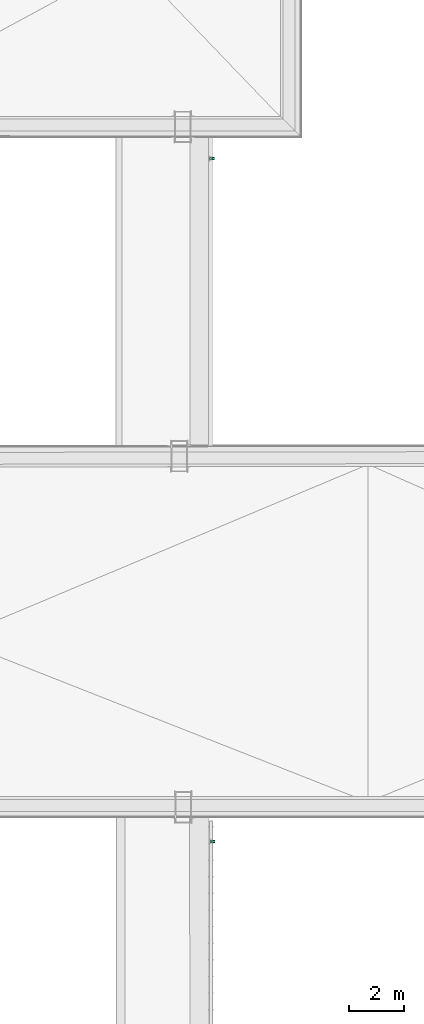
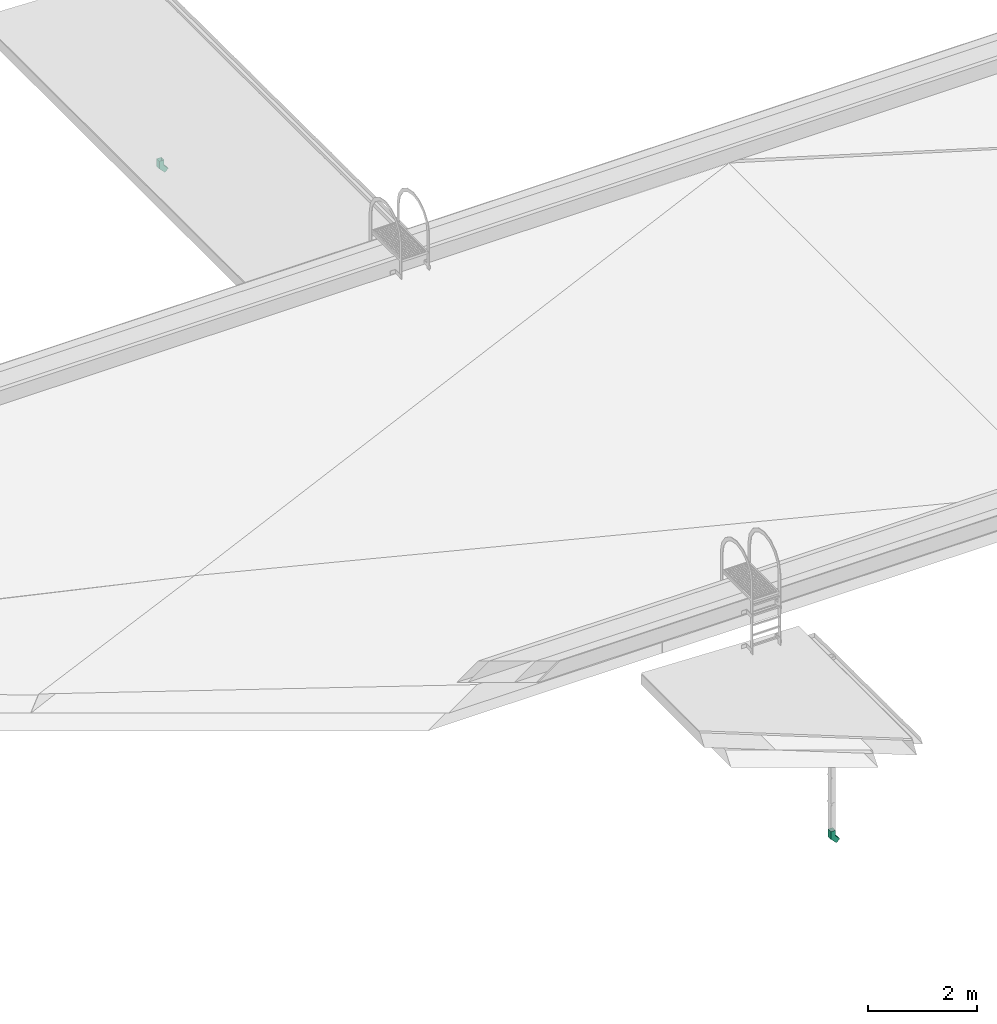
# One storey, part 24 of 47: 2 flow terminals.
"""IFC2X3 building model written with IfcOpenShell, lengths in millimetres."""

import ifcopenshell
import ifcopenshell.guid

model = None  # the IFC model being written
_history = None  # IfcOwnerHistory: only IFC2X3 demands one
_inside = {}  # id of a spatial element -> (the spatial element, [elements in it])
_under = {}  # id of a project, library or spatial element -> (it, [spatial elements below it])
_declared = {}  # id of a project -> (the project, [libraries it declares])
_typed = {}  # id of a type object -> (the type object, [elements of that type])
_made_of = {}  # id of a material, layer set ... -> (it, [elements and type objects made of it])


def new_model(schema):
    """Start an empty IFC model of exactly this schema.

    Asked for "IFC4X3", IfcOpenShell would pick the latest addendum, in which some entities
    have other attributes; the version numbers below select the first issue.
    IFC2X3 requires an IfcOwnerHistory on every rooted entity: one is made here for all.
    """
    global model, _history
    if schema == "IFC4X3":
        model = ifcopenshell.file(schema_version=(4, 3, 0, 0))
    else:
        model = ifcopenshell.file(schema=schema)
    _inside.clear()
    _under.clear()
    _declared.clear()
    _typed.clear()
    _made_of.clear()
    _history = None
    if model.schema == "IFC2X3":
        org = make("IfcOrganization", Name="unknown")
        user = make(
            "IfcPersonAndOrganization",
            ThePerson=make("IfcPerson", FamilyName="unknown"),
            TheOrganization=org,
        )
        app = make(
            "IfcApplication",
            ApplicationDeveloper=org,
            Version="unknown",
            ApplicationFullName="unknown",
            ApplicationIdentifier="unknown",
        )
        _history = make(
            "IfcOwnerHistory",
            OwningUser=user,
            OwningApplication=app,
            ChangeAction="ADDED",
            CreationDate=0,
        )
    return model


def make(cls, **values):
    """One entity of the class cls with the attributes given. An attribute that is None is left unset."""
    return model.create_entity(
        cls, **{name: value for name, value in values.items() if value is not None}
    )


def entity(cls, *values):
    """Any entity or typed value of the class cls, its attributes in the order of the schema. None: left unset."""
    e = model.create_entity(cls)
    for i, value in enumerate(values):
        if value is not None:
            e[i] = value
    return e


def rooted(cls, **values):
    """An entity with a GlobalId (a new one), such as an element, a storey or a relation."""
    return make(cls, GlobalId=ifcopenshell.guid.new(), OwnerHistory=_history, **values)


def si_unit(unit_type, name, prefix=None):
    """IfcSIUnit, for example si_unit("LENGTHUNIT", "METRE", prefix="MILLI")."""
    return make("IfcSIUnit", UnitType=unit_type, Prefix=prefix, Name=name)


def converted_unit(unit_type, name, factor, base, dimensions=None, offset=None):
    """IfcConversionBasedUnit, such as the inch: factor (a typed value) times the base unit."""
    return make(
        "IfcConversionBasedUnit"
        if offset is None
        else "IfcConversionBasedUnitWithOffset",
        ConversionOffset=offset,
        Dimensions=None
        if dimensions is None
        else entity("IfcDimensionalExponents", *dimensions),
        UnitType=unit_type,
        Name=name,
        ConversionFactor=make(
            "IfcMeasureWithUnit", ValueComponent=factor, UnitComponent=base
        ),
    )


def derived_unit(unit_type, elements):
    """IfcDerivedUnit: a product of units, each with its exponent."""
    return make(
        "IfcDerivedUnit",
        Elements=[
            make("IfcDerivedUnitElement", Unit=unit, Exponent=power)
            for unit, power in elements
        ],
        UnitType=unit_type,
    )


def money_unit(currency):
    """IfcMonetaryUnit."""
    return make("IfcMonetaryUnit", Currency=currency)


def assignment(units):
    """IfcUnitAssignment: the units of a project."""
    return None if units is None else make("IfcUnitAssignment", Units=units)


def point(xyz):
    """IfcCartesianPoint."""
    return None if xyz is None else make("IfcCartesianPoint", Coordinates=xyz)


def direction(xyz):
    """IfcDirection."""
    return None if xyz is None else make("IfcDirection", DirectionRatios=xyz)


def frame(location, z_axis=None, x_axis=None):
    """IfcAxis2Placement3D, a coordinate frame: its origin and axes. An axis left out is left unset."""
    return make(
        "IfcAxis2Placement3D",
        Location=point(location),
        Axis=direction(z_axis),
        RefDirection=direction(x_axis),
    )


def origin_with_axes():
    """The frame at (0, 0, 0) with the z axis (0, 0, 1) and the x axis (1, 0, 0) written out."""
    return frame((0.0, 0.0, 0.0), z_axis=(0.0, 0.0, 1.0), x_axis=(1.0, 0.0, 0.0))


def place(relative_to, where):
    """IfcLocalPlacement: puts the frame where relative to a parent placement (None: the world)."""
    return make(
        "IfcLocalPlacement", PlacementRelTo=relative_to, RelativePlacement=where
    )


def context(
    kind, dimensions, precision=None, world=None, true_north=None, identifier=None
):
    """IfcGeometricRepresentationContext, for example the 3D "Model" context."""
    return make(
        "IfcGeometricRepresentationContext",
        ContextIdentifier=identifier,
        ContextType=kind,
        CoordinateSpaceDimension=dimensions,
        Precision=precision,
        WorldCoordinateSystem=world,
        TrueNorth=true_north,
    )


def subcontext(parent, identifier, kind, view, scale=None):
    """IfcGeometricRepresentationSubContext, for example "Body" below "Model"."""
    return make(
        "IfcGeometricRepresentationSubContext",
        ContextIdentifier=identifier,
        ContextType=kind,
        ParentContext=parent,
        TargetScale=scale,
        TargetView=view,
    )


def project(units=None, contexts=None):
    """IfcProject with its units and contexts."""
    return rooted(
        "IfcProject",
        Name="project",
        RepresentationContexts=contexts,
        UnitsInContext=assignment(units),
    )


def spatial(cls, under=None, at=None, **own):
    """A site, building, storey or space (cls), placed at a placement, below another one or the project."""
    s = rooted(cls, ObjectPlacement=at, **own)
    if under is not None:
        _under.setdefault(under.id(), (under, []))[1].append(s)
    return s


def faces_of(points, faces, orient=None, outer=None):
    """IfcFace entities. A face is a list of loops; a loop is a list of indices into points, from 0.

    orient and outer hold one flag for each loop. By default every Orientation is true, the
    first loop of a face is its IfcFaceOuterBound and the others are IfcFaceBound.
    """
    made = []
    for i, loops in enumerate(faces):
        bounds = []
        for j, loop in enumerate(loops):
            is_outer = j == 0 if outer is None else outer[i][j]
            bounds.append(
                make(
                    "IfcFaceOuterBound" if is_outer else "IfcFaceBound",
                    Bound=make("IfcPolyLoop", Polygon=[points[k] for k in loop]),
                    Orientation=True if orient is None else orient[i][j],
                )
            )
        made.append(make("IfcFace", Bounds=bounds))
    return made


def open_shell(faces, orient=None, outer=None):
    """The faces of one IfcOpenShell. surface_model builds it on its shared points."""
    return ("IfcOpenShell", faces, orient, outer)


def surface_model(cls, points, shells):
    """IfcFaceBasedSurfaceModel or IfcShellBasedSurfaceModel (cls): surfaces that need not close."""
    shared = [point(p) for p in points]
    made = [make(c, CfsFaces=faces_of(shared, fs, o, b)) for c, fs, o, b in shells]
    if cls == "IfcFaceBasedSurfaceModel":
        return make(cls, FbsmFaces=made)
    return make(cls, SbsmBoundary=made)


def shape(context_of_items, identifier, shape_type, items):
    """IfcShapeRepresentation: the items that make up one representation, for example the "Body"."""
    return make(
        "IfcShapeRepresentation",
        ContextOfItems=context_of_items,
        RepresentationIdentifier=identifier,
        RepresentationType=shape_type,
        Items=items,
    )


def source(mapping_origin, context_of_items, identifier, shape_type, items):
    """IfcRepresentationMap: a shape defined once, which mapped items show again and again."""
    return make(
        "IfcRepresentationMap",
        MappingOrigin=mapping_origin,
        MappedRepresentation=shape(context_of_items, identifier, shape_type, items),
    )


def transform(
    local_origin,
    x_axis=None,
    y_axis=None,
    z_axis=None,
    scale=None,
    scale2=None,
    scale3=None,
    uniform=True,
):
    """IfcCartesianTransformationOperator3D, or its non-uniform kind. x_axis, y_axis, z_axis: its Axis1, 2, 3."""
    if uniform:
        return make(
            "IfcCartesianTransformationOperator3D",
            Axis1=direction(x_axis),
            Axis2=direction(y_axis),
            LocalOrigin=point(local_origin),
            Scale=scale,
            Axis3=direction(z_axis),
        )
    return make(
        "IfcCartesianTransformationOperator3DnonUniform",
        Axis1=direction(x_axis),
        Axis2=direction(y_axis),
        LocalOrigin=point(local_origin),
        Scale=scale,
        Axis3=direction(z_axis),
        Scale2=scale2,
        Scale3=scale3,
    )


def mapped(mapping_source, mapping_target):
    """IfcMappedItem: shows the shape of a source again, moved by a transform."""
    return make(
        "IfcMappedItem", MappingSource=mapping_source, MappingTarget=mapping_target
    )


def made_of(thing, what):
    """Note that an element or type object is made of a material, layer set ...; save() writes the relation."""
    if what is not None:
        _made_of.setdefault(what.id(), (what, []))[1].append(thing)
    return thing


def type_object(cls, material=None, **own):
    """A type object (cls), such as IfcWallType, which elements share."""
    return made_of(rooted(cls, **own), material)


def element(
    cls,
    number,
    at=None,
    inside=None,
    cuts=None,
    type_object=None,
    material=None,
    context=None,
    identifier="Body",
    shape_type=None,
    held_by="IfcProductDefinitionShape",
    body=None,
    shapes=None,
    **own,
):
    """One element of the class cls, such as IfcWall. Its Tag is "e" and its number.

    at: its placement. inside: the storey or other place that contains it. cuts: it is an
    opening in that element (IfcRelVoidsElement). A single representation is given by context,
    identifier, shape_type and body (its items); several are given by shapes. held_by: the class
    of the entity that holds the representations. save() writes the other relations.
    """
    e = rooted(cls, Tag="e%d" % number, ObjectPlacement=at, **own)
    if body is not None:
        shapes = [shape(context, identifier, shape_type, body)]
    if shapes is not None:
        e.Representation = make(held_by, Representations=shapes)
    if inside is not None:
        _inside.setdefault(inside.id(), (inside, []))[1].append(e)
    if cuts is not None:
        rooted(
            "IfcRelVoidsElement", RelatingBuildingElement=cuts, RelatedOpeningElement=e
        )
    if type_object is not None:
        _typed.setdefault(type_object.id(), (type_object, []))[1].append(e)
    return made_of(e, material)


def aggregate(whole, parts):
    """IfcRelAggregates: a whole, such as a stair, and the parts it consists of."""
    return rooted("IfcRelAggregates", RelatingObject=whole, RelatedObjects=parts)


def save(model, path):
    """Write the relations noted so far, then the file.

    IfcRelAggregates (storeys below a building ...), IfcRelContainedInSpatialStructure (elements
    in a storey), IfcRelDefinesByType, IfcRelAssociatesMaterial and IfcRelDeclares: one each for
    every whole, place, type object, material and project.
    """
    for whole, parts in _under.values():
        aggregate(whole, parts)
    for where, things in _inside.values():
        rooted(
            "IfcRelContainedInSpatialStructure",
            RelatedElements=things,
            RelatingStructure=where,
        )
    for kind, things in _typed.values():
        rooted("IfcRelDefinesByType", RelatedObjects=things, RelatingType=kind)
    for what, things in _made_of.values():
        rooted("IfcRelAssociatesMaterial", RelatedObjects=things, RelatingMaterial=what)
    for by, libraries in _declared.values():
        rooted("IfcRelDeclares", RelatingContext=by, RelatedDefinitions=libraries)
    model.write(path)


model = new_model("IFC2X3")

# Units and contexts
model_context = context("Model", 3, precision=1e-05, world=origin_with_axes(), true_north=direction((0.0, 1.0)))
body_context = subcontext(model_context, "Body", "Model", "MODEL_VIEW")
ifc_project = project(units=[si_unit("LENGTHUNIT", "METRE", prefix="MILLI"), si_unit("AREAUNIT", "SQUARE_METRE"), si_unit("VOLUMEUNIT", "CUBIC_METRE"), converted_unit("PLANEANGLEUNIT", "DEGREE", entity("IfcPlaneAngleMeasure", 0.0174532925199), si_unit("PLANEANGLEUNIT", "RADIAN"), dimensions=[0, 0, 0, 0, 0, 0, 0]), si_unit("SOLIDANGLEUNIT", "STERADIAN"), money_unit("EUR"), converted_unit("TIMEUNIT", "Year", entity("IfcTimeMeasure", 31556926.0), si_unit("TIMEUNIT", "SECOND"), dimensions=[0, 0, 1, 0, 0, 0, 0]), si_unit("MASSUNIT", "GRAM", prefix="KILO"), si_unit("THERMODYNAMICTEMPERATUREUNIT", "DEGREE_CELSIUS"), si_unit("LUMINOUSINTENSITYUNIT", "LUMEN"), si_unit("ENERGYUNIT", "JOULE", prefix="MEGA"), derived_unit("THERMALCONDUCTANCEUNIT", [(si_unit("POWERUNIT", "WATT"), 1), (si_unit("LENGTHUNIT", "METRE"), -1), (si_unit("THERMODYNAMICTEMPERATUREUNIT", "KELVIN"), -1)]), derived_unit("SPECIFICHEATCAPACITYUNIT", [(si_unit("ENERGYUNIT", "JOULE"), 1), (si_unit("MASSUNIT", "GRAM", prefix="KILO"), -1), (si_unit("THERMODYNAMICTEMPERATUREUNIT", "KELVIN"), -1)]), derived_unit("MASSDENSITYUNIT", [(si_unit("MASSUNIT", "GRAM", prefix="KILO"), 1), (si_unit("VOLUMEUNIT", "CUBIC_METRE"), -1)])], contexts=[model_context])

# Site, building, storey
site_placement = place(None, origin_with_axes())
site = spatial("IfcSite", under=ifc_project, at=site_placement, Name="Site", CompositionType="ELEMENT")
building_placement = place(site_placement, origin_with_axes())
building = spatial("IfcBuilding", under=site, at=building_placement, Name="Building", CompositionType="ELEMENT")
storey_placement = place(building_placement, frame((0.0, 0.0, 6000.0), z_axis=(0.0, 0.0, 1.0), x_axis=(1.0, 0.0, 0.0)))
storey = spatial("IfcBuildingStorey", under=building, at=storey_placement, Name="KATUSEPLAAN", CompositionType="ELEMENT", Elevation=6000.0)

# Flow terminals
waste_terminal_type = type_object("IfcWasteTerminalType", Name="Downspout Elbow 22", PredefinedType="NOTDEFINED")
shared_shape = source(origin_with_axes(), body_context, "Body", "SurfaceModel", [
    surface_model("IfcShellBasedSurfaceModel", [(-50.0, 50.0, 291.35533906), (-50.0, 50.0, 120.644660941), (-50.0, -70.644660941, 0.0), (-50.0, -141.35533906, 70.7106781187), (-50.0, -50.0, 162.066017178), (-50.0, -50.0, 291.35533906), (50.0, 50.0, 291.35533906), (50.0, 50.0, 120.644660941), (50.0, -70.644660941, 0.0), (50.0, -141.35533906, 70.7106781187), (50.0, -50.0, 162.066017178), (50.0, -50.0, 291.35533906)], [open_shell([[[0, 1, 2, 3, 4, 5]], [[6, 7, 1, 0]], [[7, 8, 2, 1]], [[4, 3, 9, 10]], [[5, 4, 10, 11]], [[11, 10, 9, 8, 7, 6]]])]),
])
for number, where, z_axis, x_axis in (
    (1, (40567.8666404, 57917.6920098, -3993.3641957), (0.0, 0.0, 1.0), (0.0, 1.0, 0.0)),
    (2, (40587.5153557, 33261.5688685, -4094.20302811), (0.0, 0.0, 1.0), (0.0, 1.0, 0.0)),
):
    element("IfcFlowTerminal", number, at=place(storey_placement, frame(where, z_axis=z_axis, x_axis=x_axis)), inside=storey, type_object=waste_terminal_type, Name="Vihmaveerennid", context=body_context, shape_type="MappedRepresentation", body=[
        mapped(shared_shape, transform((0.0, 0.0, 0.0))),
    ])

save(model, "model.ifc")
